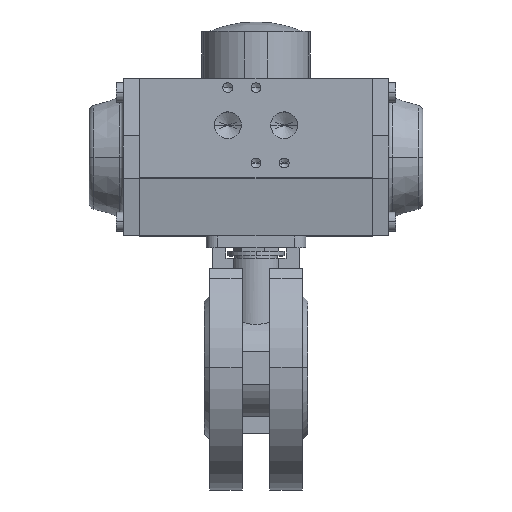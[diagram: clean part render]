
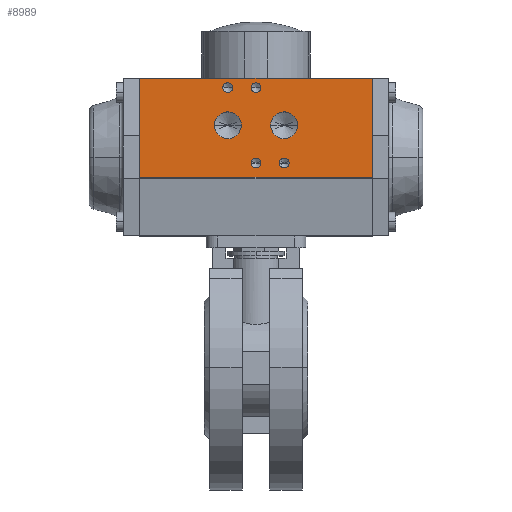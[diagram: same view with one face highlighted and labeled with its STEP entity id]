
A CAD part, top view. The second image highlights one B-rep face of the part: STEP entity #8989.
In plain terms, the highlighted planar face has unit normal (0, 0, 1) as drawn and (1, 0, 0) by its records, which use the part's own axes.
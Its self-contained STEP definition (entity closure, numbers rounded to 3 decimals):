
#224 = FACE_BOUND ( 'NONE', #6923, .T. ) ;
#226 = CARTESIAN_POINT ( 'NONE',  ( 36., -8.5, -49.5 ) ) ;
#238 = FACE_BOUND ( 'NONE', #6909, .T. ) ;
#239 = FACE_BOUND ( 'NONE', #6911, .T. ) ;
#240 = FACE_BOUND ( 'NONE', #6921, .T. ) ;
#241 = FACE_OUTER_BOUND ( 'NONE', #6905, .T. ) ;
#242 = FACE_BOUND ( 'NONE', #6907, .T. ) ;
#243 = PLANE ( 'NONE',  #14757 ) ;
#244 = FACE_BOUND ( 'NONE', #6913, .T. ) ;
#247 = DIRECTION ( 'NONE',  ( 1., 0., 0. ) ) ;
#248 = DIRECTION ( 'NONE',  ( 0., 0., -1. ) ) ;
#1684 = CARTESIAN_POINT ( 'NONE',  ( 36., -2.5, -2.1 ) ) ;
#1689 = CARTESIAN_POINT ( 'NONE',  ( 36., 29.5, -2.1 ) ) ;
#1692 = CARTESIAN_POINT ( 'NONE',  ( 36., 13.5, -6.277 ) ) ;
#1694 = CARTESIAN_POINT ( 'NONE',  ( 36., -2.5, 2.1 ) ) ;
#1696 = CARTESIAN_POINT ( 'NONE',  ( 36., -2.5, -9.9 ) ) ;
#1697 = CARTESIAN_POINT ( 'NONE',  ( 36., 29.5, 9.9 ) ) ;
#1700 = CARTESIAN_POINT ( 'NONE',  ( 36., 29.5, 2.1 ) ) ;
#1709 = CARTESIAN_POINT ( 'NONE',  ( 36., 29.5, 14.1 ) ) ;
#1710 = CARTESIAN_POINT ( 'NONE',  ( 36., -2.5, -14.1 ) ) ;
#1721 = CARTESIAN_POINT ( 'NONE',  ( 36., 13.5, 6.277 ) ) ;
#1722 = CARTESIAN_POINT ( 'NONE',  ( 36., 13.5, 17.722 ) ) ;
#1724 = CARTESIAN_POINT ( 'NONE',  ( 36., 13.5, -17.722 ) ) ;
#1740 = CARTESIAN_POINT ( 'NONE',  ( 36., -8.5, 49.5 ) ) ;
#2015 = CARTESIAN_POINT ( 'NONE',  ( 36., 29.5, 12. ) ) ;
#2016 = DIRECTION ( 'NONE',  ( 1., 0., 0. ) ) ;
#2017 = DIRECTION ( 'NONE',  ( 0., 0., -1. ) ) ;
#2033 = CARTESIAN_POINT ( 'NONE',  ( 36., -2.5, -12. ) ) ;
#2034 = DIRECTION ( 'NONE',  ( 1., 0., 0. ) ) ;
#2035 = DIRECTION ( 'NONE',  ( 0., 0., -1. ) ) ;
#2051 = CARTESIAN_POINT ( 'NONE',  ( 36., -2.5, 0. ) ) ;
#2052 = DIRECTION ( 'NONE',  ( 1., 0., 0. ) ) ;
#2053 = DIRECTION ( 'NONE',  ( 0., 0., -1. ) ) ;
#2069 = CARTESIAN_POINT ( 'NONE',  ( 36., 29.5, 0. ) ) ;
#2070 = DIRECTION ( 'NONE',  ( 1., 0., 0. ) ) ;
#2071 = DIRECTION ( 'NONE',  ( 0., 0., -1. ) ) ;
#2087 = CARTESIAN_POINT ( 'NONE',  ( 36., 13.5, -12. ) ) ;
#2088 = DIRECTION ( 'NONE',  ( 1., 0., 0. ) ) ;
#2089 = DIRECTION ( 'NONE',  ( 0., 0., -1. ) ) ;
#2105 = CARTESIAN_POINT ( 'NONE',  ( 36., 13.5, 12. ) ) ;
#2106 = DIRECTION ( 'NONE',  ( 1., 0., 0. ) ) ;
#2107 = DIRECTION ( 'NONE',  ( 0., 0., -1. ) ) ;
#4321 = LINE ( 'NONE', #4322, #14089 ) ;
#4322 = CARTESIAN_POINT ( 'NONE',  ( 36., 33.5, -49.5 ) ) ;
#4323 = DIRECTION ( 'NONE',  ( 0., 0., 1. ) ) ;
#4326 = CARTESIAN_POINT ( 'NONE',  ( 36., 29.5, 12. ) ) ;
#4327 = DIRECTION ( 'NONE',  ( 1., 0., 0. ) ) ;
#4328 = DIRECTION ( 'NONE',  ( 0., 0., -1. ) ) ;
#4329 = CARTESIAN_POINT ( 'NONE',  ( 36., -2.5, -12. ) ) ;
#4330 = DIRECTION ( 'NONE',  ( 1., 0., 0. ) ) ;
#4331 = DIRECTION ( 'NONE',  ( 0., 0., -1. ) ) ;
#4332 = CARTESIAN_POINT ( 'NONE',  ( 36., -2.5, 0. ) ) ;
#4333 = DIRECTION ( 'NONE',  ( 1., 0., 0. ) ) ;
#4334 = DIRECTION ( 'NONE',  ( 0., 0., -1. ) ) ;
#4335 = CARTESIAN_POINT ( 'NONE',  ( 36., 29.5, 0. ) ) ;
#4336 = DIRECTION ( 'NONE',  ( 1., 0., 0. ) ) ;
#4337 = DIRECTION ( 'NONE',  ( 0., 0., -1. ) ) ;
#4338 = LINE ( 'NONE', #4339, #14075 ) ;
#4339 = CARTESIAN_POINT ( 'NONE',  ( 36., -8.5, 49.5 ) ) ;
#4340 = CARTESIAN_POINT ( 'NONE',  ( 36., 13.5, -12. ) ) ;
#4341 = DIRECTION ( 'NONE',  ( 1., 0., 0. ) ) ;
#4342 = DIRECTION ( 'NONE',  ( 0., 0., -1. ) ) ;
#4343 = LINE ( 'NONE', #4353, #14073 ) ;
#4344 = LINE ( 'NONE', #4350, #14086 ) ;
#4345 = CARTESIAN_POINT ( 'NONE',  ( 36., 13.5, 12. ) ) ;
#4346 = DIRECTION ( 'NONE',  ( 1., 0., 0. ) ) ;
#4347 = DIRECTION ( 'NONE',  ( 0., 0., -1. ) ) ;
#4349 = DIRECTION ( 'NONE',  ( 0., 1., 0. ) ) ;
#4350 = CARTESIAN_POINT ( 'NONE',  ( 36., -8.5, -49.5 ) ) ;
#4352 = DIRECTION ( 'NONE',  ( 0., 0., 1. ) ) ;
#4353 = CARTESIAN_POINT ( 'NONE',  ( 36., -8.5, -49.5 ) ) ;
#4354 = DIRECTION ( 'NONE',  ( 0., 1., 0. ) ) ;
#5257 = ORIENTED_EDGE ( 'NONE', *, *, #10922, .T. ) ;
#5258 = ORIENTED_EDGE ( 'NONE', *, *, #10921, .F. ) ;
#5259 = ORIENTED_EDGE ( 'NONE', *, *, #10920, .F. ) ;
#5260 = ORIENTED_EDGE ( 'NONE', *, *, #10912, .T. ) ;
#5261 = ORIENTED_EDGE ( 'NONE', *, *, #10790, .F. ) ;
#5262 = ORIENTED_EDGE ( 'NONE', *, *, #10919, .F. ) ;
#5263 = ORIENTED_EDGE ( 'NONE', *, *, #10784, .F. ) ;
#5264 = ORIENTED_EDGE ( 'NONE', *, *, #10918, .F. ) ;
#5265 = ORIENTED_EDGE ( 'NONE', *, *, #10778, .F. ) ;
#5266 = ORIENTED_EDGE ( 'NONE', *, *, #10917, .F. ) ;
#5267 = ORIENTED_EDGE ( 'NONE', *, *, #10772, .F. ) ;
#5268 = ORIENTED_EDGE ( 'NONE', *, *, #10916, .F. ) ;
#5269 = ORIENTED_EDGE ( 'NONE', *, *, #10766, .F. ) ;
#5270 = ORIENTED_EDGE ( 'NONE', *, *, #10915, .F. ) ;
#5271 = ORIENTED_EDGE ( 'NONE', *, *, #10760, .F. ) ;
#5272 = ORIENTED_EDGE ( 'NONE', *, *, #10914, .F. ) ;
#5567 = VERTEX_POINT ( 'NONE', #7079 ) ;
#5627 = VERTEX_POINT ( 'NONE', #7139 ) ;
#5629 = VERTEX_POINT ( 'NONE', #7141 ) ;
#6905 = EDGE_LOOP ( 'NONE', ( #5260, #5259, #5258, #5257 ) ) ;
#6907 = EDGE_LOOP ( 'NONE', ( #5268, #5267 ) ) ;
#6909 = EDGE_LOOP ( 'NONE', ( #5264, #5263 ) ) ;
#6911 = EDGE_LOOP ( 'NONE', ( #5272, #5271 ) ) ;
#6913 = EDGE_LOOP ( 'NONE', ( #5266, #5265 ) ) ;
#6921 = EDGE_LOOP ( 'NONE', ( #5262, #5261 ) ) ;
#6923 = EDGE_LOOP ( 'NONE', ( #5270, #5269 ) ) ;
#7079 = CARTESIAN_POINT ( 'NONE',  ( 36., -8.5, -49.5 ) ) ;
#7139 = CARTESIAN_POINT ( 'NONE',  ( 36., 33.5, -49.5 ) ) ;
#7141 = CARTESIAN_POINT ( 'NONE',  ( 36., 33.5, 49.5 ) ) ;
#7362 = VERTEX_POINT ( 'NONE', #1684 ) ;
#7367 = VERTEX_POINT ( 'NONE', #1689 ) ;
#7370 = VERTEX_POINT ( 'NONE', #1692 ) ;
#7372 = VERTEX_POINT ( 'NONE', #1694 ) ;
#7374 = VERTEX_POINT ( 'NONE', #1696 ) ;
#7375 = VERTEX_POINT ( 'NONE', #1697 ) ;
#7378 = VERTEX_POINT ( 'NONE', #1700 ) ;
#7387 = VERTEX_POINT ( 'NONE', #1709 ) ;
#7388 = VERTEX_POINT ( 'NONE', #1710 ) ;
#7399 = VERTEX_POINT ( 'NONE', #1721 ) ;
#7400 = VERTEX_POINT ( 'NONE', #1722 ) ;
#7402 = VERTEX_POINT ( 'NONE', #1724 ) ;
#7418 = VERTEX_POINT ( 'NONE', #1740 ) ;
#8989 = ADVANCED_FACE ( 'NONE', ( #239, #224, #242, #244, #238, #240, #241 ), #243, .T. ) ;
#10760 = EDGE_CURVE ( 'NONE', #7387, #7375, #14344, .T. ) ;
#10766 = EDGE_CURVE ( 'NONE', #7374, #7388, #14336, .T. ) ;
#10772 = EDGE_CURVE ( 'NONE', #7372, #7362, #14326, .T. ) ;
#10778 = EDGE_CURVE ( 'NONE', #7378, #7367, #14318, .T. ) ;
#10784 = EDGE_CURVE ( 'NONE', #7370, #7402, #14310, .T. ) ;
#10790 = EDGE_CURVE ( 'NONE', #7400, #7399, #14302, .T. ) ;
#10912 = EDGE_CURVE ( 'NONE', #5627, #5629, #4321, .T. ) ;
#10914 = EDGE_CURVE ( 'NONE', #7375, #7387, #14087, .T. ) ;
#10915 = EDGE_CURVE ( 'NONE', #7388, #7374, #14085, .T. ) ;
#10916 = EDGE_CURVE ( 'NONE', #7362, #7372, #14083, .T. ) ;
#10917 = EDGE_CURVE ( 'NONE', #7367, #7378, #14081, .T. ) ;
#10918 = EDGE_CURVE ( 'NONE', #7402, #7370, #14079, .T. ) ;
#10919 = EDGE_CURVE ( 'NONE', #7399, #7400, #14077, .T. ) ;
#10920 = EDGE_CURVE ( 'NONE', #7418, #5629, #4338, .T. ) ;
#10921 = EDGE_CURVE ( 'NONE', #5567, #7418, #4344, .T. ) ;
#10922 = EDGE_CURVE ( 'NONE', #5567, #5627, #4343, .T. ) ;
#14073 = VECTOR ( 'NONE', #4354, 1000. ) ;
#14074 = AXIS2_PLACEMENT_3D ( 'NONE', #4345, #4346, #4347 ) ;
#14075 = VECTOR ( 'NONE', #4349, 1000. ) ;
#14076 = AXIS2_PLACEMENT_3D ( 'NONE', #4340, #4341, #4342 ) ;
#14077 = CIRCLE ( 'NONE', #14074, 5.722 ) ;
#14078 = AXIS2_PLACEMENT_3D ( 'NONE', #4335, #4336, #4337 ) ;
#14079 = CIRCLE ( 'NONE', #14076, 5.722 ) ;
#14080 = AXIS2_PLACEMENT_3D ( 'NONE', #4332, #4333, #4334 ) ;
#14081 = CIRCLE ( 'NONE', #14078, 2.1 ) ;
#14082 = AXIS2_PLACEMENT_3D ( 'NONE', #4329, #4330, #4331 ) ;
#14083 = CIRCLE ( 'NONE', #14080, 2.1 ) ;
#14084 = AXIS2_PLACEMENT_3D ( 'NONE', #4326, #4327, #4328 ) ;
#14085 = CIRCLE ( 'NONE', #14082, 2.1 ) ;
#14086 = VECTOR ( 'NONE', #4352, 1000. ) ;
#14087 = CIRCLE ( 'NONE', #14084, 2.1 ) ;
#14089 = VECTOR ( 'NONE', #4323, 1000. ) ;
#14296 = AXIS2_PLACEMENT_3D ( 'NONE', #2105, #2106, #2107 ) ;
#14302 = CIRCLE ( 'NONE', #14296, 5.722 ) ;
#14306 = AXIS2_PLACEMENT_3D ( 'NONE', #2087, #2088, #2089 ) ;
#14310 = CIRCLE ( 'NONE', #14306, 5.722 ) ;
#14314 = AXIS2_PLACEMENT_3D ( 'NONE', #2069, #2070, #2071 ) ;
#14318 = CIRCLE ( 'NONE', #14314, 2.1 ) ;
#14322 = AXIS2_PLACEMENT_3D ( 'NONE', #2051, #2052, #2053 ) ;
#14326 = CIRCLE ( 'NONE', #14322, 2.1 ) ;
#14330 = AXIS2_PLACEMENT_3D ( 'NONE', #2033, #2034, #2035 ) ;
#14336 = CIRCLE ( 'NONE', #14330, 2.1 ) ;
#14340 = AXIS2_PLACEMENT_3D ( 'NONE', #2015, #2016, #2017 ) ;
#14344 = CIRCLE ( 'NONE', #14340, 2.1 ) ;
#14757 = AXIS2_PLACEMENT_3D ( 'NONE', #226, #247, #248 ) ;
